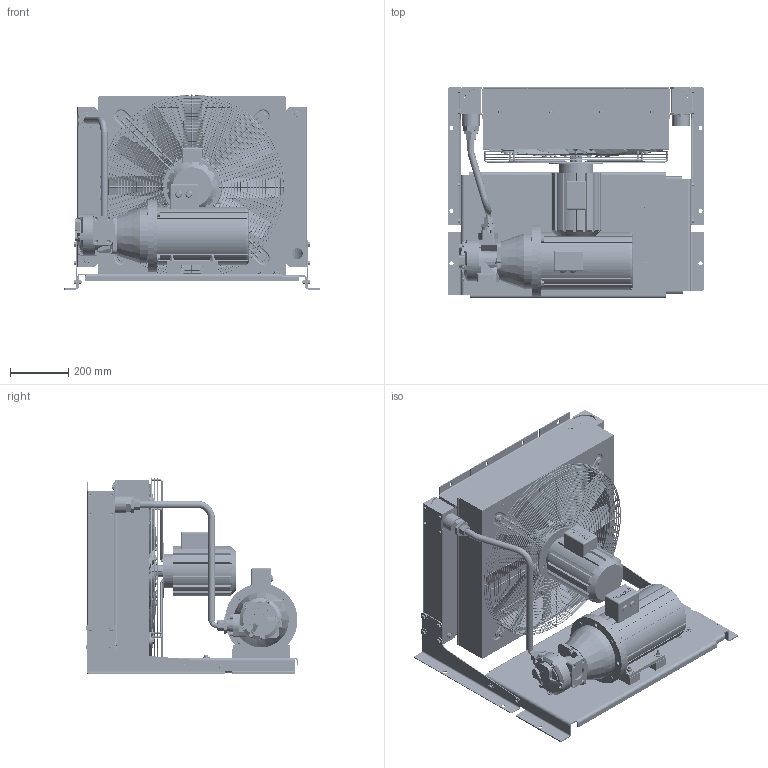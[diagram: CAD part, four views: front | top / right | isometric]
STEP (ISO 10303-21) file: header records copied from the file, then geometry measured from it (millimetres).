
FILE_DESCRIPTION( ( 'Unknown' ), '1' );
FILE_NAME( 'E:/du/intern/umbach/130827/AP60-80.stp', 'Unknown', ( 'CAD-SV' ), ( 'AKG-TTI' ), 'PSStep 14.0', 'SOLID EDGE ST4', ' ' );
FILE_SCHEMA( ( 'AUTOMOTIVE_DESIGN { 1 0 10303 214 1 1 1 1 }' ) );
Length unit declared in the file: millimetre
Products named in the file (80): 10000030277_000; 10000010980_000-oa3; 10000016423_000-oa4; 10000016423_000-oa5; 10000016755_000; 10000000738_000; 10000047225_000; 10000019429_000-oa0; 10000019429_000-oa1; 10000047182_000-oa2; 10000030276_000; 10000030272_000; 10000000909_000; 10000047251_000; 10000000664_000; 10000000811_000; 10000060736_000; 10000004020_000; 10000004019_000; 10000004021_000-oa6; Assem1; 10000060547_000; 10000060548_000; 10000001346_000; 10000001107_000; 10000001357_000; 10000001226_000; 10000001275_000; 10000004811_000; 10000000620_000; 10000001112_000; 10000005168_000; 10000001297_000; 10000001202_000; 10000004453_000; 10000001739_000; 10000001205_000; 10000060629_000; 10000060630_000; 10000060631_000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
Assembly tree (198 placements, depth 4):
  Assem1
    10000060547_000
    10000060548_000
    10000001346_000  x16
    10000001107_000  x8
    10000001357_000  x32
    10000001226_000  x12
    10000001275_000  x16
    10000004811_000
    10000004811_000
    10000004811_000
    10000004811_000
    10000004811_000
    10000004811_000
    10000004811_000
    10000004811_000
    10000004811_000
    10000004811_000
    10000004811_000
    10000004811_000
    10000004811_000
    10000004811_000
    10000004811_000
    10000004811_000
    10000004811_000
    10000004811_000
    10000004811_000
    10000004811_000
    10000004811_000
    10000004811_000
    10000000620_000  x4
    10000001112_000  x6
    10000005168_000
    10000001297_000  x4
    10000001202_000  x4
    10000004453_000
    10000001739_000
    10000001205_000
    10000060629_000
    10000060630_000
    10000060631_000  x2
    10000005226_000
    10000005437_000
    10000005406_000
    10000005435_000
    10000005435_000
    10000005435_000
    10000001230_000  x4
    10000001259_000  x4
    10000001130_000  x4
    10000001286_000  x2
    10000001288_000  x4
    10000001141_000  x4
    10000003379_000  x2
    10000001541_000
    10000001533_000  x2
    10000017114_000
    10000001580_000  x2
    10000001647_000
    10000001629_000
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Bounding box: 880 x 731 x 672.29 mm (x, y, z)
Volume: 63595313.3 mm3; surface area: 6776524.7 mm2
Topology: 219 solids, 222 shells, 5013 faces, 12297 edges, 8048 vertices
Faces by surface type: plane 2993, cylinder 964, cone 499, torus 235, extrusion 228, bspline 86, sphere 8
Full cylindrical faces by diameter (mm): 4 x8, 5 x10, 5.35 x5, 6 x18, 6.4 x5, 6.8 x16, 7 x4, 7.5 x1, 8 x40, 8.38 x2, 8.4 x32, 8.5 x4, 8.9 x5, 9.03 x41, 10 x31, 10.11 x4, 10.2 x8, 10.5 x20, 11 x6, 11.63 x16, 12 x16, 12.5 x14, 13 x4, 14 x15, 14.2 x2, 14.5 x4, 14.63 x18, 15 x4, 15.9 x6, 16 x4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
Entity records: 174161 total; most frequent: CARTESIAN_POINT 59871, ORIENTED_EDGE 17282, DIRECTION 15108, EDGE_CURVE 8641, VERTEX_POINT 5931, AXIS2_PLACEMENT_3D 5338, EDGE_LOOP 4819, VECTOR 4432
